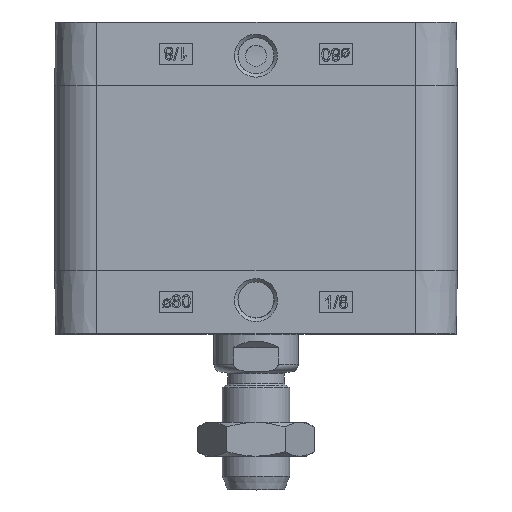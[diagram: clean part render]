
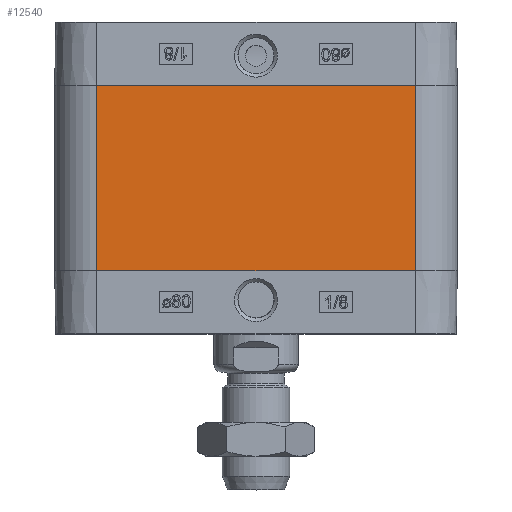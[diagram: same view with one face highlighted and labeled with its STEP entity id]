
A CAD part, top view. The second image highlights one B-rep face of the part: STEP entity #12540.
In plain terms, the highlighted planar face has unit normal (0, 0, 1) as drawn and (-1, 0, 0) by its records, which use the part's own axes.
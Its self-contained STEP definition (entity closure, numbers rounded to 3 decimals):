
#1257=ORIENTED_EDGE('',*,*,#4993,.T.);
#1258=ORIENTED_EDGE('',*,*,#4992,.F.);
#1259=ORIENTED_EDGE('',*,*,#4994,.F.);
#1260=ORIENTED_EDGE('',*,*,#4995,.T.);
#4992=EDGE_CURVE('',#6860,#6857,#8150,.T.);
#4993=EDGE_CURVE('',#6861,#6857,#8151,.T.);
#4994=EDGE_CURVE('',#6862,#6860,#8152,.T.);
#4995=EDGE_CURVE('',#6862,#6861,#8153,.T.);
#6857=VERTEX_POINT('',#22325);
#6860=VERTEX_POINT('',#22330);
#6861=VERTEX_POINT('',#22334);
#6862=VERTEX_POINT('',#22336);
#8150=LINE('',#22331,#9224);
#8151=LINE('',#22333,#9225);
#8152=LINE('',#22335,#9226);
#8153=LINE('',#22337,#9227);
#9224=VECTOR('',#18970,1000.);
#9225=VECTOR('',#18973,1000.);
#9226=VECTOR('',#18974,1000.);
#9227=VECTOR('',#18975,1000.);
#10295=EDGE_LOOP('',(#1257,#1258,#1259,#1260));
#11243=FACE_BOUND('',#10295,.T.);
#12190=PLANE('',#17818);
#12540=ADVANCED_FACE('',(#11243),#12190,.T.);
#17818=AXIS2_PLACEMENT_3D('',#22332,#18971,#18972);
#18970=DIRECTION('',(0.,0.,1.));
#18971=DIRECTION('',(-1.,0.,0.));
#18972=DIRECTION('',(0.,0.,1.));
#18973=DIRECTION('',(0.,1.,0.));
#18974=DIRECTION('',(0.,1.,0.));
#18975=DIRECTION('',(0.,0.,1.));
#22325=CARTESIAN_POINT('',(-47.75,37.75,29.));
#22330=CARTESIAN_POINT('',(-47.75,37.75,-15.));
#22331=CARTESIAN_POINT('',(-47.75,37.75,0.));
#22332=CARTESIAN_POINT('',(-47.75,-37.75,0.));
#22333=CARTESIAN_POINT('',(-47.75,-37.75,29.));
#22334=CARTESIAN_POINT('',(-47.75,-37.75,29.));
#22335=CARTESIAN_POINT('',(-47.75,-37.75,-15.));
#22336=CARTESIAN_POINT('',(-47.75,-37.75,-15.));
#22337=CARTESIAN_POINT('',(-47.75,-37.75,0.));
